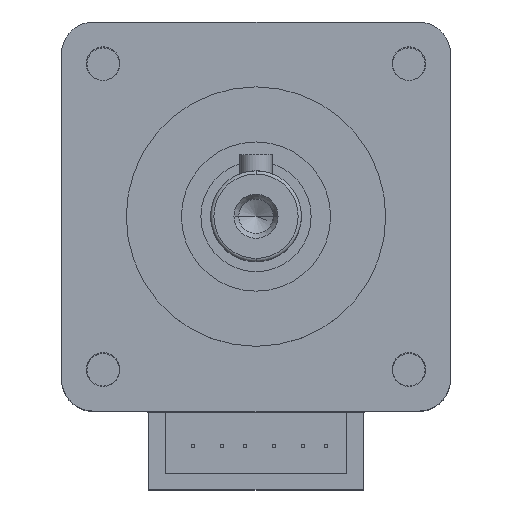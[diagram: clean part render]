
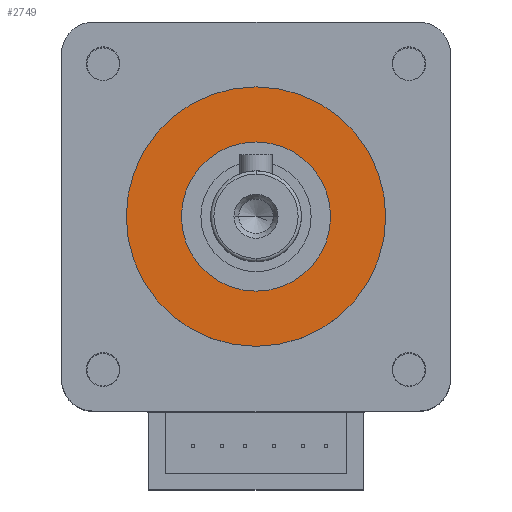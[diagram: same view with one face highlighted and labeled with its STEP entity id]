
A CAD part, top view. The second image highlights one B-rep face of the part: STEP entity #2749.
In plain terms, the highlighted planar face has unit normal (0, 0, 1).
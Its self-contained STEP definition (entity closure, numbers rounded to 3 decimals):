
#147 = DIRECTION ( 'NONE',  ( 0., 0., 1. ) ) ;
#214 = DIRECTION ( 'NONE',  ( -1., 0., 0. ) ) ;
#279 = CARTESIAN_POINT ( 'NONE',  ( -20., 0., 2.5 ) ) ;
#528 = DIRECTION ( 'NONE',  ( -1., 0., 0. ) ) ;
#783 = VERTEX_POINT ( 'NONE', #1798 ) ;
#840 = PLANE ( 'NONE',  #3744 ) ;
#1233 = CARTESIAN_POINT ( 'NONE',  ( 11.5, 0., 2.5 ) ) ;
#1415 = ORIENTED_EDGE ( 'NONE', *, *, #3747, .F. ) ;
#1710 = AXIS2_PLACEMENT_3D ( 'NONE', #6194, #147, #3684 ) ;
#1798 = CARTESIAN_POINT ( 'NONE',  ( 20., 0., 2.5 ) ) ;
#2057 = DIRECTION ( 'NONE',  ( 0., 0., -1. ) ) ;
#2177 = FACE_BOUND ( 'NONE', #2731, .T. ) ;
#2483 = FACE_OUTER_BOUND ( 'NONE', #2623, .T. ) ;
#2623 = EDGE_LOOP ( 'NONE', ( #1415, #3841 ) ) ;
#2694 = EDGE_CURVE ( 'NONE', #2982, #4116, #5642, .T. ) ;
#2702 = CIRCLE ( 'NONE', #5246, 20. ) ;
#2731 = EDGE_LOOP ( 'NONE', ( #5300, #5746 ) ) ;
#2749 = ADVANCED_FACE ( 'NONE', ( #2483, #2177 ), #840, .F. ) ;
#2762 = DIRECTION ( 'NONE',  ( -1., 0., 0. ) ) ;
#2868 = DIRECTION ( 'NONE',  ( -1., 0., 0. ) ) ;
#2913 = CARTESIAN_POINT ( 'NONE',  ( -11.5, 0., 2.5 ) ) ;
#2982 = VERTEX_POINT ( 'NONE', #2913 ) ;
#3204 = DIRECTION ( 'NONE',  ( 0., 0., 1. ) ) ;
#3457 = CIRCLE ( 'NONE', #6226, 20. ) ;
#3684 = DIRECTION ( 'NONE',  ( -1., 0., 0. ) ) ;
#3744 = AXIS2_PLACEMENT_3D ( 'NONE', #5902, #4829, #2868 ) ;
#3747 = EDGE_CURVE ( 'NONE', #5071, #783, #2702, .T. ) ;
#3841 = ORIENTED_EDGE ( 'NONE', *, *, #4296, .F. ) ;
#4060 = CARTESIAN_POINT ( 'NONE',  ( 0., 0., 2.5 ) ) ;
#4116 = VERTEX_POINT ( 'NONE', #1233 ) ;
#4227 = DIRECTION ( 'NONE',  ( 0., 0., -1. ) ) ;
#4296 = EDGE_CURVE ( 'NONE', #783, #5071, #3457, .T. ) ;
#4724 = AXIS2_PLACEMENT_3D ( 'NONE', #4734, #3204, #2762 ) ;
#4734 = CARTESIAN_POINT ( 'NONE',  ( 0., 0., 2.5 ) ) ;
#4829 = DIRECTION ( 'NONE',  ( 0., 0., -1. ) ) ;
#5071 = VERTEX_POINT ( 'NONE', #279 ) ;
#5246 = AXIS2_PLACEMENT_3D ( 'NONE', #4060, #2057, #528 ) ;
#5300 = ORIENTED_EDGE ( 'NONE', *, *, #2694, .F. ) ;
#5642 = CIRCLE ( 'NONE', #1710, 11.5 ) ;
#5746 = ORIENTED_EDGE ( 'NONE', *, *, #5854, .F. ) ;
#5854 = EDGE_CURVE ( 'NONE', #4116, #2982, #6286, .T. ) ;
#5902 = CARTESIAN_POINT ( 'NONE',  ( 0., 0., 2.5 ) ) ;
#6191 = CARTESIAN_POINT ( 'NONE',  ( 0., 0., 2.5 ) ) ;
#6194 = CARTESIAN_POINT ( 'NONE',  ( 0., 0., 2.5 ) ) ;
#6226 = AXIS2_PLACEMENT_3D ( 'NONE', #6191, #4227, #214 ) ;
#6286 = CIRCLE ( 'NONE', #4724, 11.5 ) ;
